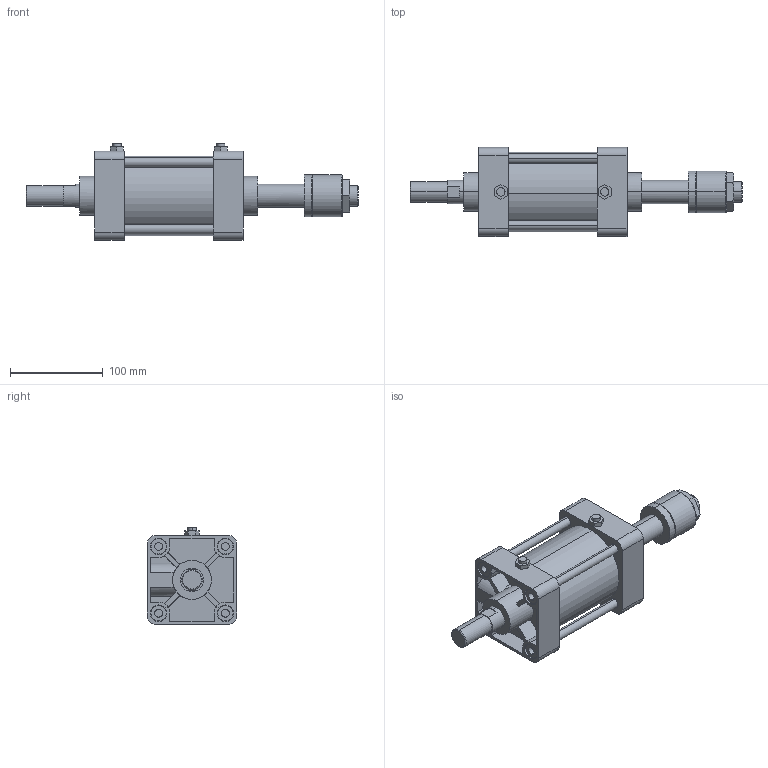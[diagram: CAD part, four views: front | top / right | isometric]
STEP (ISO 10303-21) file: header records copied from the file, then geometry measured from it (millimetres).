
FILE_DESCRIPTION (( 'STEP AP203' ), '1' );
FILE_NAME ('KGA7-80#-50-N.STEP', '2016-04-14T07:54:07', ( '' ), ( '' ), 'SwSTEP 2.0', 'SolidWorks 2014', '' );
FILE_SCHEMA (( 'CONFIG_CONTROL_DESIGN' ));
Length unit declared in the file: millimetre
Products named in the file (8): KGA7-80-Turn; KGA7-80#-50-N; KGLH2-80-50; K#7-80-50-After
Assembly tree (17 placements, depth 2):
  KGA7-80#-50-N
    K#7-80-50-After
    KGLH2-80-50
    (unnamed)
    (unnamed)  x4
    (unnamed)  x8
    KGA7-80-Turn
    (unnamed)
Bounding box: 358 x 96 x 104.3 mm (x, y, z)
Volume: 1171291.8 mm3; surface area: 194951.1 mm2
Topology: 17 solids, 17 shells, 361 faces, 840 edges, 532 vertices
Faces by surface type: plane 153, cylinder 134, torus 46, cone 28
Entity records: 9308 total; most frequent: CARTESIAN_POINT 1703, DIRECTION 1434, ORIENTED_EDGE 1300, EDGE_CURVE 650, AXIS2_PLACEMENT_3D 545, VERTEX_POINT 422, VECTOR 344, LINE 344
